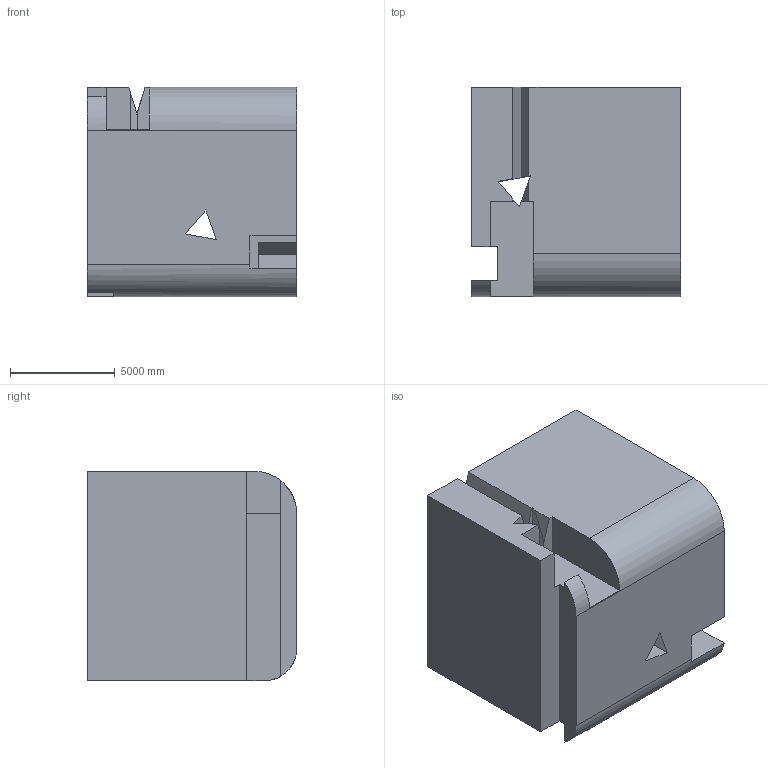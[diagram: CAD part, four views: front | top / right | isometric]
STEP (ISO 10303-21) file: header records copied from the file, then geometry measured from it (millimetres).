
FILE_DESCRIPTION (( 'STEP AP203' ), '1' );
FILE_NAME ('884.STEP', '2022-07-29T13:59:22', ( 'user' ), ( '' ), 'SwSTEP 2.0', 'SolidWorks 2021', '' );
FILE_SCHEMA (( 'CONFIG_CONTROL_DESIGN' ));
Length unit declared in the file: centimetre
Products named in the file (1): 884
Bounding box: 10000 x 10000 x 10000 mm (x, y, z)
Volume: 911288621598.2 mm3; surface area: 725806544 mm2
Topology: 1 solids, 1 shells, 39 faces, 114 edges, 76 vertices
Faces by surface type: plane 37, cylinder 2
Entity records: 1361 total; most frequent: CARTESIAN_POINT 230, ORIENTED_EDGE 228, DIRECTION 202, EDGE_CURVE 114, LINE 106, VECTOR 106, VERTEX_POINT 76, AXIS2_PLACEMENT_3D 48
